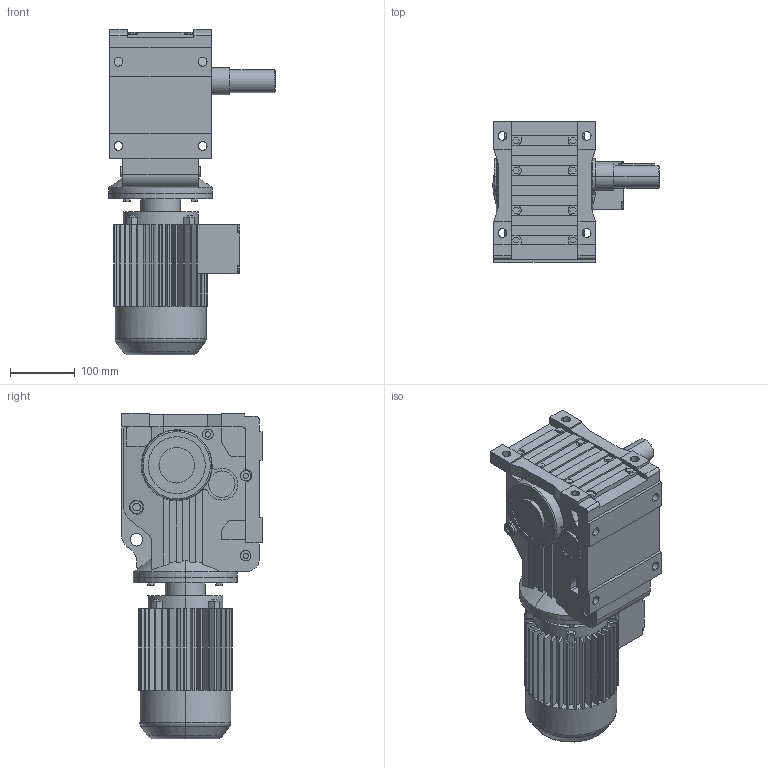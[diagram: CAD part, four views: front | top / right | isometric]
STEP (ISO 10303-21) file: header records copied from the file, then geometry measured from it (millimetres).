
FILE_DESCRIPTION(('Open CASCADE Model'),'2;1');
FILE_NAME('Open CASCADE Shape Model','2021-06-16T10:53:49',('Author'),( 'Open CASCADE'),'Open CASCADE STEP processor 6.3','Open CASCADE 6.3' ,'Unknown');
FILE_SCHEMA(('AUTOMOTIVE_DESIGN_CC2 { 1 2 10303 214 -1 1 5 4 }'));
Length unit declared in the file: millimetre
Products named in the file (4): 1_K57DT80-A; K37‵157_57.step; 萇儂_160-DT80-249-313-145-122.step; す瑩妗陑粣K_57.step
Assembly tree (3 placements, depth 2):
  1_K57DT80-A
    K37‵157_57.step
    萇儂_160-DT80-249-313-145-122.step
    す瑩妗陑粣K_57.step
Bounding box: 257 x 217 x 502 mm (x, y, z)
Volume: 9711023.5 mm3; surface area: 637739.2 mm2
Topology: 3 solids, 3 shells, 836 faces, 2204 edges, 1431 vertices
Faces by surface type: plane 582, cylinder 231, cone 15, torus 8
Entity records: 57416 total; most frequent: CARTESIAN_POINT 15535, DIRECTION 7217, ORIENTED_EDGE 4404, PCURVE 4404, DEFINITIONAL_REPRESENTATION 4404, LINE 3932, VECTOR 3932, EDGE_CURVE 2202
